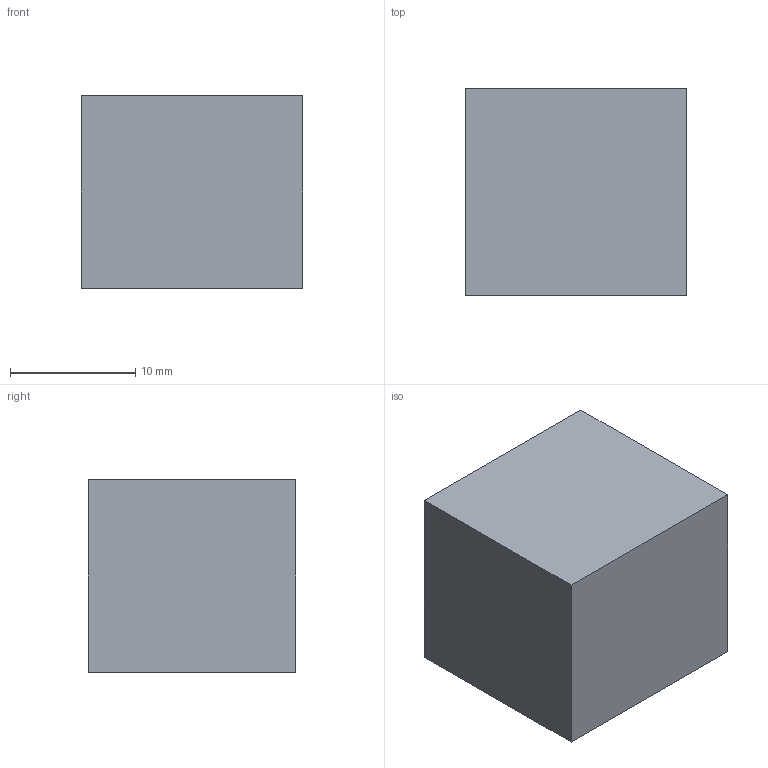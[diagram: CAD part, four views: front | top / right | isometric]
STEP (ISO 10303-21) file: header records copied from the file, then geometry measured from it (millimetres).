
FILE_DESCRIPTION(('Open CASCADE Model'),'2;1');
FILE_NAME('Open CASCADE Shape Model','2026-08-18T10:55:09',('Author'),( 'Open CASCADE'),'Open CASCADE STEP processor 7.9','Open CASCADE 7.9' ,'Unknown');
FILE_SCHEMA(('AUTOMOTIVE_DESIGN { 1 0 10303 214 1 1 1 1 }'));
Length unit declared in the file: millimetre
Products named in the file (1): usb_3_ports
Bounding box: 17.65 x 16.54 x 15.32 mm (x, y, z)
Volume: 4474.5 mm3; surface area: 1632 mm2
Topology: 1 solids, 1 shells, 6 faces, 12 edges, 8 vertices
Faces by surface type: plane 6
Entity records: 322 total; most frequent: CARTESIAN_POINT 51, DIRECTION 50, LINE 36, VECTOR 36, ORIENTED_EDGE 24, PCURVE 24, DEFINITIONAL_REPRESENTATION 24, EDGE_CURVE 12
